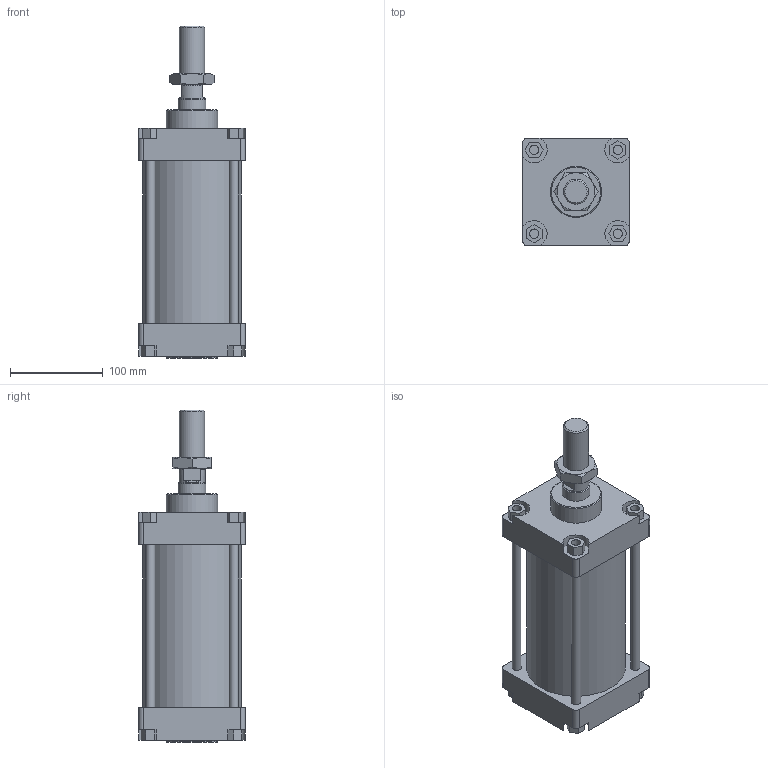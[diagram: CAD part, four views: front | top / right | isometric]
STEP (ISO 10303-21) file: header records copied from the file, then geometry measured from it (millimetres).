
FILE_DESCRIPTION(/* description */ (''),/* implementation_level */ '2;1');
FILE_NAME(/* name */ 'I:\Area Tecnica\Disegni\VARIE-3D\Componenti\CSP\Ø100\130#_100_####_###\1303_100_0100_01A.stp',/* time_stamp */ '2016-11-24T14:04:12+01:00',/* author */ ('Maniean1'),/* organization */ ('Pneumax S.p.A.'),/* preprocessor_version */ 'ST-DEVELOPER v15.2',/* originating_system */ 'Autodesk Inventor 2014',/* authorisation */ '');
FILE_SCHEMA (('AUTOMOTIVE_DESIGN { 1 0 10303 214 3 1 1 }'));
Length unit declared in the file: millimetre
Products named in the file (6): C_130#_100_0100; Testata anteriore_100; Testata posteriore_100; S_1303_100_0100_01A; 1300_100_18F; 1303_100_0100_01A
Bounding box: 115 x 115 x 357 mm (x, y, z)
Volume: 1834038.1 mm3; surface area: 315612.8 mm2
Topology: 9 solids, 9 shells, 162 faces, 380 edges, 249 vertices
Faces by surface type: plane 105, cylinder 42, cone 15
Full cylindrical faces by diameter (mm): 10 x12, 19 x2, 21.8 x1, 24.835 x1, 27 x1, 28 x1, 30 x3, 55 x2, 100 x2, 106 x1
Entity records: 4530 total; most frequent: CARTESIAN_POINT 785, DIRECTION 764, ORIENTED_EDGE 672, EDGE_CURVE 336, AXIS2_PLACEMENT_3D 271, VERTEX_POINT 244, EDGE_LOOP 236, LINE 222
